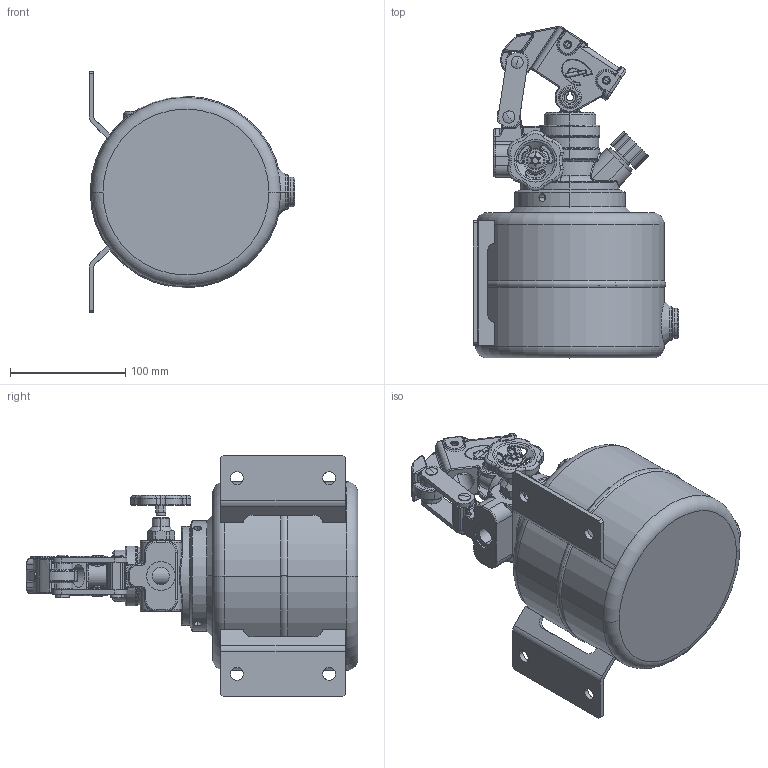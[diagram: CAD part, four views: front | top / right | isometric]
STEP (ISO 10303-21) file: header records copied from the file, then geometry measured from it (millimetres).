
FILE_DESCRIPTION (( 'STEP AP203' ), '1' );
FILE_NAME ('P16S1+RP2.STEP', '2012-04-11T13:35:45', ( 'Chapel' ), ( 'Chapel' ), 'SwSTEP 2.0', 'SolidWorks 2007', '' );
FILE_SCHEMA (( 'CONFIG_CONTROL_DESIGN' ));
Length unit declared in the file: millimetre
Products named in the file (1): P16S1+RP2
Bounding box: 178.5 x 288.01 x 210 mm (x, y, z)
Surface area: 213230.2 mm2 (no closed solid volume)
Topology: 0 solids, 40 shells, 920 faces, 2779 edges, 1787 vertices
Faces by surface type: cylinder 369, torus 204, plane 159, bspline 135, cone 44, sphere 9
Entity records: 40949 total; most frequent: CARTESIAN_POINT 17243, DIRECTION 5115, ORIENTED_EDGE 4620, EDGE_CURVE 2752, AXIS2_PLACEMENT_3D 2145, VERTEX_POINT 1786, CIRCLE 1359, EDGE_LOOP 980
